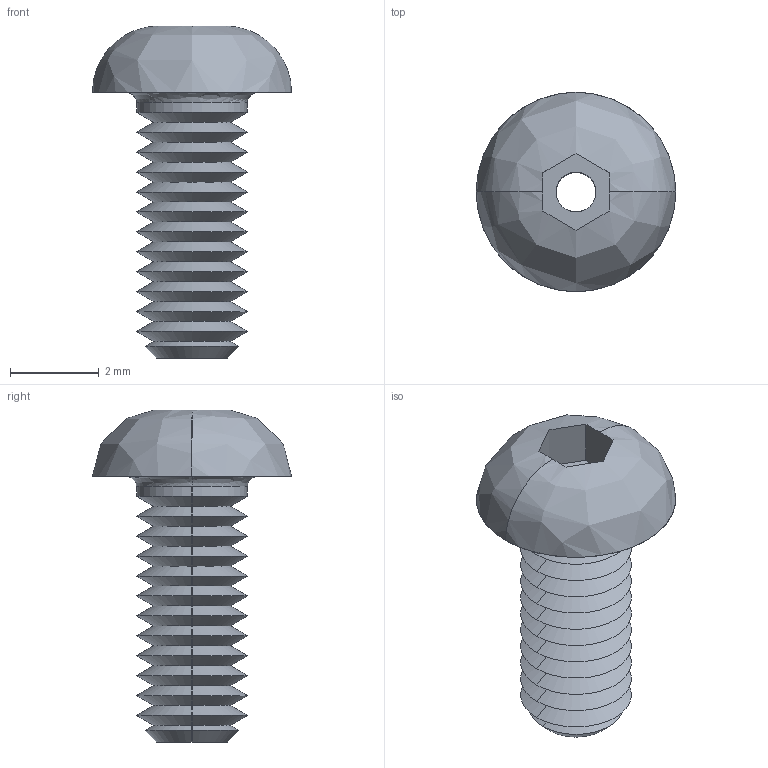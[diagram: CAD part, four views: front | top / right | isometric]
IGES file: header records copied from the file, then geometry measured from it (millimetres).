
Start section: SolidWorks IGES file using analytic representation for surfaces
Global section: file name: C:\Users\liam_\OneDrive\Documents\WORK\Work for WixRoyd\Job Files\J-00019 - Matt Davis CAD Checking\04. CAD Drawings\automotion20190605\P0094_v2\P0094_v2_20190712_IGES\P0094.025-006-A2.igs; native system: SolidWorks 2017; preprocessor: SolidWorks 2017; author: liam_; date: 190712.175026; units: millimetre
Bounding box: 4.5 x 4.5 x 7.5 mm (x, y, z)
Surface area: 137.3 mm2 (no closed solid volume)
Topology: 0 solids, 0 shells, 67 faces, 414 edges, 414 vertices
Faces by surface type: revolution 54, bspline 13
